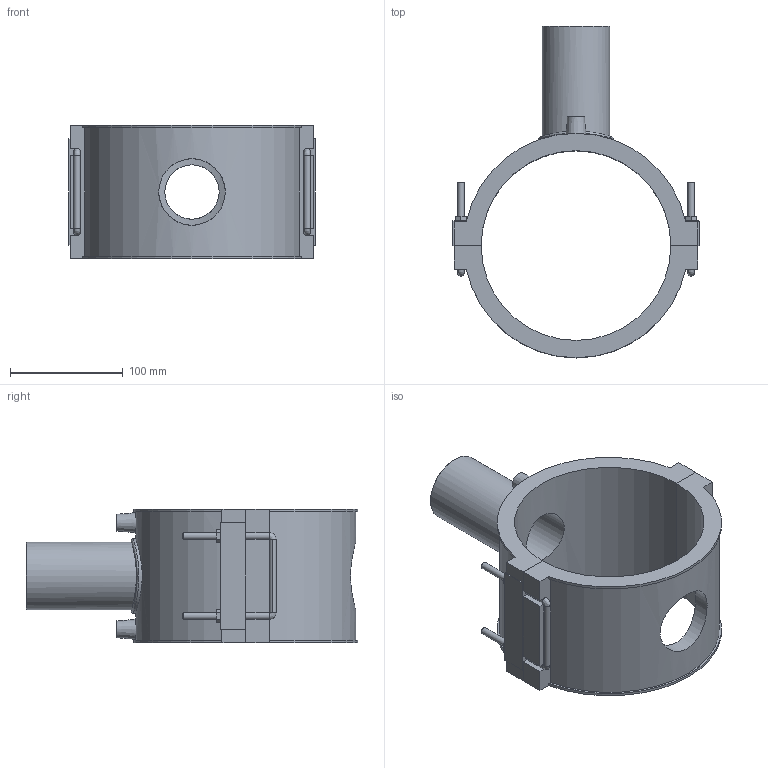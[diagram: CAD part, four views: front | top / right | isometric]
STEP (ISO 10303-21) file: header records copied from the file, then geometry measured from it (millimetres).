
FILE_DESCRIPTION(/* description */ ('PLASSON BRANCH SADDLE 6'''' x 2'''''),/* implementation_level */ '2;1');
FILE_NAME(/* name */ 'C:\Dropbox\KIMPROJECTS-Inventor 2019\99-16-3568-Processing Inch\ASTM ElectroFusion 2021\5958B-2\5958BB03060020.ipt.stp',/* time_stamp */ '2021-08-30T09:53:45+03:00',/* author */ ('KIM'),/* organization */ (''),/* preprocessor_version */ 'ST-DEVELOPER v17.2',/* originating_system */ 'Autodesk Inventor 2019',/* authorisation */ '');
FILE_SCHEMA (('AUTOMOTIVE_DESIGN { 1 0 10303 214 3 1 1 }'));
Length unit declared in the file: inch
Products named in the file (1): 5958BB03060020
Bounding box: 217.9 x 293.9 x 118.11 mm (x, y, z)
Volume: 1082809.6 mm3; surface area: 211942.6 mm2
Topology: 1 solids, 1 shells, 135 faces, 358 edges, 227 vertices
Faces by surface type: plane 85, cylinder 34, bspline 9, cone 7
Full cylindrical faces by diameter (mm): 4 x2, 6 x8, 10 x2, 48.08 x1, 58.898 x1, 60.1 x1, 66.11 x1
Entity records: 4952 total; most frequent: CARTESIAN_POINT 1590, ORIENTED_EDGE 700, DIRECTION 658, EDGE_CURVE 350, LINE 234, VECTOR 234, VERTEX_POINT 227, AXIS2_PLACEMENT_3D 212
